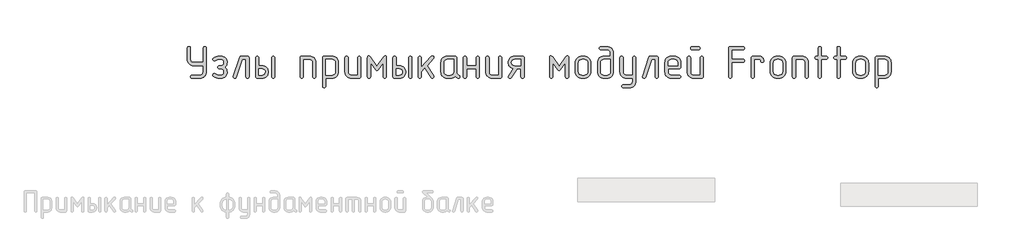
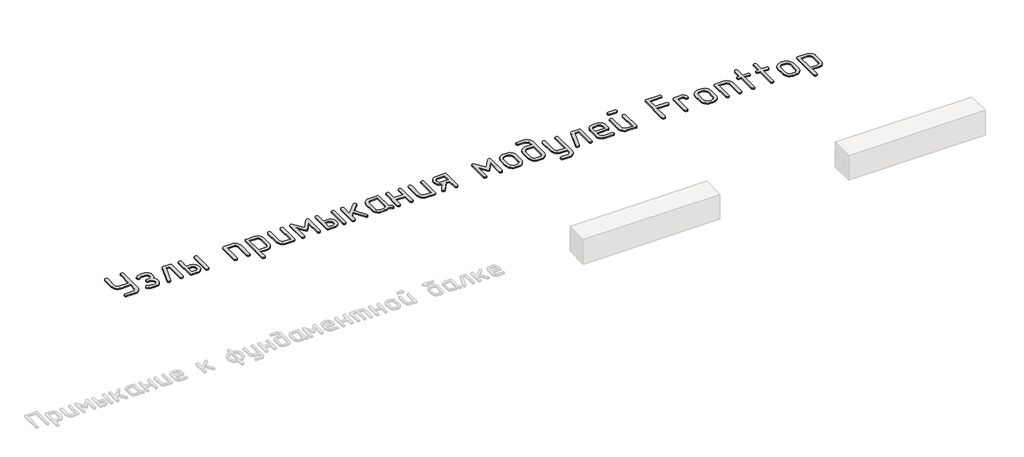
# One storey, part 21 of 37: 1 proxy.
"""IFC4 building model written with IfcOpenShell, lengths in millimetres."""

from ifc_helpers import new_model, si_unit, origin, origin_with_axes, place, context, project, spatial, polyline, outline, extrude, element, save

model = new_model("IFC4")

# Units and contexts
model_context = context("Model", 3, world=origin())
ifc_project = project(units=[si_unit("LENGTHUNIT", "METRE", prefix="MILLI")], contexts=[model_context])

# Site, building, storey
site = spatial("IfcSite", under=ifc_project)
building = spatial("IfcBuilding", under=site)
storey = spatial("IfcBuildingStorey", under=building, Name="Этаж 01", Elevation=0.0)

# Proxy
placement = place(None, origin())
element("IfcBuildingElementProxy", 1, Name="600 мм ГОСТ 2.304", ObjectType="600 мм ГОСТ 2.304", at=placement, inside=storey, context=model_context, shape_type="SweptSolid", body=[
    extrude(outline(polyline([(38693.7635638, -6694.9311498), (38512.6607793, -6694.9311498), (38488.420839, -6692.7223481), (38466.0579062, -6686.0959428), (38445.5719809, -6675.051934), (38426.9630631, -6659.5903217), (38411.5014508, -6640.9814039), (38400.457442, -6620.4954786), (38393.8310367, -6598.1325458), (38391.6222349, -6573.8926055), (38391.6222349, -6362.757701), (38393.8405165, -6350.0736806), (38400.4953613, -6340.233611), (38410.449189, -6333.9200403), (38422.5644192, -6331.8155167), (38433.5231095, -6333.8062822), (38443.3442194, -6339.7785788), (38450.2834593, -6349.5048904), (38452.5965393, -6362.757701), (38452.5965393, -6573.8926055), (38456.9003847, -6597.4215581), (38469.8119212, -6616.7414636), (38489.1318267, -6629.653), (38512.6607793, -6633.9568455), (38693.7635638, -6633.9568455), (38693.7635638, -6362.757701), (38695.9628857, -6350.0736806), (38702.5608514, -6340.233611), (38712.2682034, -6333.9200403), (38723.7956838, -6331.8155167), (38735.2283658, -6333.8062822), (38744.9546774, -6339.7785788), (38751.6095222, -6349.5048904), (38753.8278038, -6362.757701), (38753.8278038, -6815.05963), (38751.6190021, -6839.6977234), (38744.9925968, -6862.3450513), (38733.948588, -6883.0016136), (38718.4869757, -6901.6674105), (38700.276211, -6916.7308697), (38680.0746808, -6927.4904834), (38657.882385, -6933.9462516), (38633.6993237, -6936.0981743), (38482.6286593, -6936.0981743), (38470.0583969, -6933.8988524), (38460.5596014, -6927.3008867), (38454.5873048, -6917.5935347), (38452.5965393, -6906.0660543), (38454.4735468, -6894.5385739), (38460.1045693, -6884.831222), (38469.4896068, -6878.2332562), (38482.6286593, -6876.0339343), (38633.6993237, -6876.0339343), (38656.6594862, -6871.6163308), (38676.0931497, -6858.3635202), (38689.3459602, -6838.7023406), (38693.7635638, -6815.05963), (38693.7635638, -6694.9311498)])), origin_with_axes(), (0.0, 0.0, 1.0), 20.0),
    extrude(outline(polyline([(39035.9477193, -6754.9953899), (38998.0283758, -6754.9953899), (38985.4581134, -6752.796068), (38975.9593179, -6746.1981022), (38969.9870213, -6736.4907503), (38967.9962558, -6724.9632699), (38969.9870213, -6713.5305878), (38975.9593179, -6703.8042762), (38985.4581134, -6697.1494314), (38998.0283758, -6694.9311498), (39028.0604958, -6694.9311498), (39053.3147786, -6690.3997883), (39072.6536438, -6676.8057037), (39084.939511, -6657.030766), (39089.0348001, -6633.9568455), (39085.2807851, -6611.6602716), (39074.0187401, -6592.3972451), (39054.5661169, -6578.5187654), (39028.0604958, -6573.8926055), (38998.0283758, -6573.8926055), (38959.5781615, -6579.8459424), (38925.5265911, -6597.7059532), (38907.0219515, -6604.8347897), (38895.5892694, -6602.5217098), (38885.8629578, -6595.5824699), (38879.208113, -6585.3063278), (38876.9898314, -6572.9825412), (38880.0992176, -6560.6587546), (38889.4273761, -6550.0792578), (38913.7336753, -6534.2194924), (38939.9359416, -6522.8910885), (38968.0341751, -6516.0940462), (38998.0283758, -6513.8283654), (39028.0604958, -6513.8283654), (39055.2486651, -6516.1509252), (39079.4791256, -6523.1186045), (39100.7518773, -6534.7314035), (39119.0669202, -6550.989322), (39132.2059727, -6568.4037805), (39141.5910102, -6588.0365206), (39147.2220327, -6609.8875423), (39149.0990402, -6633.9568455), (39146.7196014, -6660.5193456), (39139.581285, -6684.5412497), (39127.684091, -6706.0225578), (39111.0280194, -6724.9632699), (39127.4470951, -6743.6575062), (39139.3916883, -6766.0678382), (39146.6722022, -6790.6774921), (39149.0990402, -6815.9696942), (39147.2220327, -6839.6977234), (39141.5910102, -6861.434987), (39132.2059727, -6881.1814852), (39119.0669202, -6898.9372177), (39100.7518773, -6915.1951362), (39079.4791256, -6926.8079352), (39055.2486651, -6933.7756146), (39028.0604958, -6936.0981743), (38998.0283758, -6936.0981743), (38968.0341751, -6933.8324936), (38939.9359416, -6927.0354512), (38913.7336753, -6915.7070474), (38889.4273761, -6899.847282), (38880.0992176, -6889.0402691), (38876.9898314, -6876.0339343), (38879.208113, -6864.2789378), (38885.8629578, -6853.8890377), (38895.5892694, -6846.6085237), (38907.0219515, -6844.1816858), (38925.5265911, -6851.3105223), (38941.6612717, -6862.1270151), (38959.1231294, -6869.8530813), (38977.9121641, -6874.488721), (38998.0283758, -6876.0339343), (39028.0604958, -6876.0339343), (39053.8835687, -6871.5025727), (39073.1086759, -6857.9084881), (39085.0532691, -6838.1335505), (39089.0348001, -6815.05963), (39085.6978979, -6793.2180881), (39075.6871912, -6775.320158), (39058.2442932, -6761.4416783), (39035.9477193, -6754.9953899)])), origin_with_axes(), (0.0, 0.0, 1.0), 20.0),
    extrude(outline(polyline([(39567.4252374, -6906.0660543), (39565.3207139, -6919.2051068), (39559.0071432, -6928.5901443), (39549.3945896, -6934.2211668), (39537.3931174, -6936.0981743), (39525.865637, -6934.1074088), (39516.158285, -6928.1351122), (39509.5603193, -6918.6363167), (39507.3609974, -6906.0660543), (39507.3609974, -6573.8926055), (39437.5894054, -6573.8926055), (39324.4380844, -6915.7734062), (39313.4414748, -6930.7894663), (39297.1361571, -6936.0981743), (39285.4949187, -6934.1074088), (39275.4462927, -6928.1351122), (39268.5070528, -6918.8638327), (39266.1939729, -6906.9761185), (39268.0141013, -6896.3587024), (39387.2325172, -6534.1531335), (39398.0016108, -6518.9095574), (39416.354573, -6513.8283654), (39537.3931174, -6513.8283654), (39550.5321699, -6515.7053729), (39559.9172074, -6521.3363954), (39565.5482299, -6530.7214329), (39567.4252374, -6543.8604854), (39567.4252374, -6906.0660543)])), origin_with_axes(), (0.0, 0.0, 1.0), 20.0),
    extrude(outline(polyline([(40054.6129624, -6906.0660543), (40052.5084388, -6919.2051068), (40046.1948681, -6928.5901443), (40036.5823146, -6934.2211668), (40024.5808424, -6936.0981743), (40013.6221521, -6934.1074088), (40003.8010421, -6928.1351122), (39996.8618023, -6918.6363167), (39994.5487223, -6906.0660543), (39994.5487223, -6543.8604854), (39996.7480443, -6531.2902231), (40003.34601, -6521.7914275), (40013.0533619, -6515.8191309), (40024.5808424, -6513.8283654), (40036.0135244, -6515.7053729), (40045.739836, -6521.3363954), (40052.3946808, -6530.7214329), (40054.6129624, -6543.8604854), (40054.6129624, -6906.0660543)])), origin_with_axes(), (0.0, 0.0, 1.0), 20.0),
    extrude(outline(polyline([(39753.3816978, -6694.9311498), (39813.4459379, -6694.9311498), (39840.6341072, -6697.2537096), (39864.8645676, -6704.221389), (39886.1373193, -6715.8341879), (39904.4523622, -6732.0921064), (39917.5914148, -6749.5065649), (39926.9764523, -6769.139305), (39932.6074748, -6790.9903267), (39934.4844823, -6815.05963), (39932.6074748, -6839.1384131), (39926.9764523, -6861.0178743), (39917.5914148, -6880.6980135), (39904.4523622, -6898.1788309), (39886.4785934, -6914.7685436), (39865.3195998, -6926.6183385), (39840.9753813, -6933.7282154), (39813.4459379, -6936.0981743), (39723.3495778, -6936.0981743), (39709.8123722, -6934.2211668), (39700.1429396, -6928.5901443), (39694.34128, -6919.2051068), (39692.4073935, -6906.0660543), (39692.4073935, -6543.8604854), (39694.6256751, -6531.2902231), (39701.2805199, -6521.7914275), (39711.2343476, -6515.8191309), (39723.3495778, -6513.8283654), (39734.3082681, -6515.7053729), (39744.129378, -6521.3363954), (39751.0686179, -6530.7214329), (39753.3816978, -6543.8604854), (39753.3816978, -6694.9311498)]), holes=[polyline([(39753.3816978, -6754.9953899), (39753.3816978, -6876.0339343), (39813.4459379, -6876.0339343), (39838.5864626, -6871.5025727), (39857.5840537, -6857.9084881), (39869.5286469, -6838.1335505), (39873.510178, -6815.05963), (39869.983679, -6792.3080239), (39859.4041822, -6773.5000295), (39839.951559, -6759.6215498), (39813.4459379, -6754.9953899), (39753.3816978, -6754.9953899)])]), origin_with_axes(), (0.0, 0.0, 1.0), 20.0),
    extrude(outline(polyline([(40839.0883402, -6906.0660543), (40836.9838167, -6919.2051068), (40830.670246, -6928.5901443), (40821.0576924, -6934.2211668), (40809.0562202, -6936.0981743), (40797.5287398, -6934.1074088), (40787.8213878, -6928.1351122), (40781.2234221, -6918.6363167), (40779.0241002, -6906.0660543), (40779.0241002, -6633.9568455), (40774.6064966, -6610.9966831), (40761.3536861, -6591.5630195), (40741.6925065, -6578.310209), (40718.0497958, -6573.8926055), (40597.9213157, -6573.8926055), (40597.9213157, -6906.0660543), (40595.8167921, -6919.2051068), (40589.5032215, -6928.5901443), (40579.8906679, -6934.2211668), (40567.8891957, -6936.0981743), (40556.2479572, -6934.1074088), (40546.1993312, -6928.1351122), (40539.2600914, -6918.6363167), (40536.9470114, -6906.0660543), (40536.9470114, -6543.8604854), (40538.8808979, -6530.7214329), (40544.6825575, -6521.3363954), (40554.3519901, -6515.7053729), (40567.8891957, -6513.8283654), (40718.0497958, -6513.8283654), (40741.8915831, -6516.0371672), (40763.9701208, -6522.6635724), (40784.2854091, -6533.7075812), (40802.8374479, -6549.1691935), (40818.6972133, -6567.3799582), (40830.0256171, -6587.5814885), (40836.8226594, -6609.7737842), (40839.0883402, -6633.9568455), (40839.0883402, -6906.0660543)])), origin_with_axes(), (0.0, 0.0, 1.0), 20.0),
    extrude(outline(polyline([(41025.0448006, -6936.0981743), (41025.0448006, -7087.1688387), (41022.9402771, -7100.3078913), (41016.6267064, -7109.6929288), (41007.0141528, -7115.3239513), (40995.0126806, -7117.2009588), (40983.3714421, -7115.2101932), (40973.3228161, -7109.2378966), (40966.3835763, -7099.7391011), (40964.0704963, -7087.1688387), (40964.0704963, -6543.8604854), (40966.0043828, -6530.7214329), (40971.8060424, -6521.3363954), (40981.475475, -6515.7053729), (40995.0126806, -6513.8283654), (41145.1732807, -6513.8283654), (41169.7544952, -6515.9802881), (41192.231186, -6522.4360564), (41212.6033533, -6533.1956701), (41230.870997, -6548.2591293), (41246.3326093, -6566.8680471), (41257.3766181, -6587.3539724), (41264.0030234, -6609.7169052), (41266.2118251, -6633.9568455), (41266.2118251, -6815.05963), (41264.0030234, -6839.6977234), (41257.3766181, -6862.3450513), (41246.3326093, -6883.0016136), (41230.870997, -6901.6674105), (41212.6033533, -6916.7308697), (41192.231186, -6927.4904834), (41169.7544952, -6933.9462516), (41145.1732807, -6936.0981743), (41025.0448006, -6936.0981743)]), holes=[polyline([(41025.0448006, -6876.0339343), (41145.1732807, -6876.0339343), (41168.8159914, -6871.6163308), (41188.477171, -6858.3635202), (41201.7299815, -6838.7023406), (41206.1475851, -6815.05963), (41206.1475851, -6633.9568455), (41201.7299815, -6610.9966831), (41188.477171, -6591.5630195), (41168.8159914, -6578.310209), (41145.1732807, -6573.8926055), (41025.0448006, -6573.8926055), (41025.0448006, -6876.0339343)])]), origin_with_axes(), (0.0, 0.0, 1.0), 20.0),
    extrude(outline(polyline([(41693.33531, -6906.0660543), (41691.4583025, -6919.2051068), (41685.82728, -6928.5901443), (41676.4422425, -6934.2211668), (41663.30319, -6936.0981743), (41512.2325256, -6936.0981743), (41487.9925853, -6933.9462516), (41465.6296525, -6927.4904834), (41445.1437271, -6916.7308697), (41426.5348093, -6901.6674105), (41411.073197, -6883.0016136), (41400.0291882, -6862.3450513), (41393.402783, -6839.6977234), (41391.1939812, -6815.05963), (41391.1939812, -6543.8604854), (41393.4122628, -6531.2902231), (41400.0671076, -6521.7914275), (41410.0209353, -6515.8191309), (41422.1361655, -6513.8283654), (41433.0948558, -6515.7053729), (41442.9159657, -6521.3363954), (41449.8552056, -6530.7214329), (41452.1682855, -6543.8604854), (41452.1682855, -6815.05963), (41456.472131, -6838.7023406), (41469.3836675, -6858.3635202), (41488.703573, -6871.6163308), (41512.2325256, -6876.0339343), (41633.27107, -6876.0339343), (41633.27107, -6543.8604854), (41635.4703919, -6531.2902231), (41642.0683576, -6521.7914275), (41651.7757096, -6515.8191309), (41663.30319, -6513.8283654), (41674.7358721, -6515.7053729), (41684.4621837, -6521.3363954), (41691.1170284, -6530.7214329), (41693.33531, -6543.8604854), (41693.33531, -6906.0660543)])), origin_with_axes(), (0.0, 0.0, 1.0), 20.0),
    extrude(outline(polyline([(42180.523035, -6906.0660543), (42178.3047534, -6918.6363167), (42171.6499086, -6928.1351122), (42161.923597, -6934.1074088), (42150.490915, -6936.0981743), (42138.3946444, -6934.2211668), (42128.8010505, -6928.5901443), (42122.5443588, -6919.2051068), (42120.4587949, -6906.0660543), (42120.4587949, -6637.4454251), (42024.1436625, -6772.7416426), (42011.7440372, -6784.5724778), (41999.4202506, -6788.5160895), (41986.6414318, -6784.5724778), (41974.6968386, -6772.7416426), (41879.2917704, -6637.4454251), (41879.2917704, -6906.0660543), (41876.9786905, -6918.6363167), (41870.0394506, -6928.1351122), (41860.2183407, -6934.1074088), (41849.2596504, -6936.0981743), (41836.57563, -6934.2211668), (41826.7355604, -6928.5901443), (41820.4219897, -6919.2051068), (41818.3174661, -6906.0660543), (41818.3174661, -6543.8604854), (41820.1944736, -6528.9202641), (41825.8254961, -6517.7719771), (41834.3383887, -6510.8327373), (41844.8610066, -6508.5196573), (41860.4837761, -6512.9562205), (41873.9830623, -6526.2659101), (41999.4202506, -6702.8183733), (42125.767503, -6526.2659101), (42139.4184667, -6512.9562205), (42153.9794946, -6508.5196573), (42164.5021124, -6510.8327373), (42173.015005, -6517.7719771), (42178.6460275, -6528.9202641), (42180.523035, -6543.8604854), (42180.523035, -6906.0660543)])), origin_with_axes(), (0.0, 0.0, 1.0), 20.0),
    extrude(outline(polyline([(42665.8906315, -6906.0660543), (42663.7861079, -6919.2051068), (42657.4725372, -6928.5901443), (42647.8599837, -6934.2211668), (42635.8585115, -6936.0981743), (42624.8998212, -6934.1074088), (42615.0787112, -6928.1351122), (42608.1394714, -6918.6363167), (42605.8263914, -6906.0660543), (42605.8263914, -6543.8604854), (42608.0257133, -6531.2902231), (42614.6236791, -6521.7914275), (42624.331031, -6515.8191309), (42635.8585115, -6513.8283654), (42647.2911935, -6515.7053729), (42657.0175051, -6521.3363954), (42663.6723499, -6530.7214329), (42665.8906315, -6543.8604854), (42665.8906315, -6906.0660543)])), origin_with_axes(), (0.0, 0.0, 1.0), 20.0),
    extrude(outline(polyline([(42364.6593669, -6694.9311498), (42424.723607, -6694.9311498), (42451.9117763, -6697.2537096), (42476.1422367, -6704.221389), (42497.4149884, -6715.8341879), (42515.7300313, -6732.0921064), (42528.8690838, -6749.5065649), (42538.2541213, -6769.139305), (42543.8851439, -6790.9903267), (42545.7621514, -6815.05963), (42543.8851439, -6839.1384131), (42538.2541213, -6861.0178743), (42528.8690838, -6880.6980135), (42515.7300313, -6898.1788309), (42497.7562625, -6914.7685436), (42476.5972689, -6926.6183385), (42452.2530503, -6933.7282154), (42424.723607, -6936.0981743), (42334.6272469, -6936.0981743), (42321.0900413, -6934.2211668), (42311.4206087, -6928.5901443), (42305.6189491, -6919.2051068), (42303.6850626, -6906.0660543), (42303.6850626, -6543.8604854), (42305.9033442, -6531.2902231), (42312.558189, -6521.7914275), (42322.5120166, -6515.8191309), (42334.6272469, -6513.8283654), (42345.5859371, -6515.7053729), (42355.4070471, -6521.3363954), (42362.346287, -6530.7214329), (42364.6593669, -6543.8604854), (42364.6593669, -6694.9311498)]), holes=[polyline([(42364.6593669, -6754.9953899), (42364.6593669, -6876.0339343), (42424.723607, -6876.0339343), (42449.8641317, -6871.5025727), (42468.8617228, -6857.9084881), (42480.806316, -6838.1335505), (42484.787847, -6815.05963), (42481.2613481, -6792.3080239), (42470.6818513, -6773.5000295), (42451.2292281, -6759.6215498), (42424.723607, -6754.9953899), (42364.6593669, -6754.9953899)])]), origin_with_axes(), (0.0, 0.0, 1.0), 20.0),
    extrude(outline(polyline([(42911.0012677, -6738.1592014), (42843.8081911, -6808.8408576), (42843.8081911, -6906.0660543), (42841.7036675, -6919.2051068), (42835.3900968, -6928.5901443), (42825.7775432, -6934.2211668), (42813.776071, -6936.0981743), (42802.343389, -6934.1074088), (42792.6170774, -6928.1351122), (42785.9622326, -6918.6363167), (42783.743951, -6906.0660543), (42783.743951, -6543.8604854), (42785.8484746, -6531.2902231), (42792.1620453, -6521.7914275), (42801.7745988, -6515.8191309), (42813.776071, -6513.8283654), (42824.7347613, -6515.7053729), (42834.5558713, -6521.3363954), (42841.4951111, -6530.7214329), (42843.8081911, -6543.8604854), (42843.8081911, -6721.4746903), (43035.5283917, -6520.957202), (43044.0981633, -6513.676688), (43054.0330313, -6511.24985), (43065.6742697, -6513.676688), (43075.7228958, -6520.957202), (43082.6621356, -6531.5366988), (43084.9752156, -6543.8604854), (43082.5483776, -6555.3879658), (43075.2678636, -6566.9154463), (42953.319255, -6694.0210856), (43077.846379, -6886.6513504), (43084.9752156, -6906.9761185), (43082.5483776, -6918.9775908), (43075.2678636, -6928.5901443), (43065.1054796, -6934.903715), (43054.0330313, -6937.0082386), (43041.4817286, -6934.1263685), (43032.0398121, -6925.4807582), (42911.0012677, -6738.1592014)])), origin_with_axes(), (0.0, 0.0, 1.0), 20.0),
    extrude(outline(polyline([(43487.3752885, -6896.3587024), (43469.4773584, -6912.322746), (43447.6358166, -6925.025726), (43423.1399207, -6933.3300623), (43397.2789284, -6936.0981743), (43337.2146884, -6936.0981743), (43312.9747481, -6933.9462516), (43290.6118152, -6927.4904834), (43270.1258899, -6916.7308697), (43251.5169721, -6901.6674105), (43236.0553598, -6883.0016136), (43225.011351, -6862.3450513), (43218.3849458, -6839.6977234), (43216.176144, -6815.05963), (43216.176144, -6633.9568455), (43218.3849458, -6610.1150583), (43225.011351, -6588.0365206), (43236.0553598, -6567.7212323), (43251.5169721, -6549.1691935), (43270.1258899, -6533.7075812), (43290.6118152, -6522.6635724), (43312.9747481, -6516.0371672), (43337.2146884, -6513.8283654), (43488.2853528, -6513.8283654), (43501.4244053, -6515.7053729), (43510.8094428, -6521.3363954), (43516.4404653, -6530.7214329), (43518.3174728, -6543.8604854), (43518.3174728, -6815.05963), (43521.1803832, -6834.6070515), (43529.7691145, -6852.59978), (43543.0219251, -6867.7106384), (43559.8770733, -6878.6124496), (43574.4381012, -6889.2677851), (43579.2917771, -6905.1559901), (43577.1872536, -6916.9109865), (43570.8736829, -6927.3008867), (43561.2611293, -6934.5814006), (43549.2596571, -6937.0082386), (43536.8221124, -6933.519659), (43508.9893143, -6917.5556154), (43487.3752885, -6896.3587024)]), holes=[polyline([(43458.2532327, -6815.05963), (43458.2532327, -6573.8926055), (43337.2146884, -6573.8926055), (43313.6857357, -6578.310209), (43294.3658302, -6591.5630195), (43281.4542938, -6610.9966831), (43277.1504483, -6633.9568455), (43277.1504483, -6815.05963), (43281.4542938, -6838.7023406), (43294.3658302, -6858.3635202), (43313.6857357, -6871.6163308), (43337.2146884, -6876.0339343), (43397.2789284, -6876.0339343), (43420.9216391, -6871.6163308), (43440.5828187, -6858.3635202), (43453.8356292, -6838.7023406), (43458.2532327, -6815.05963)])]), origin_with_axes(), (0.0, 0.0, 1.0), 20.0),
    extrude(outline(polyline([(43885.3767176, -6694.9311498), (43885.3767176, -6543.8604854), (43887.5760396, -6531.2902231), (43894.1740053, -6521.7914275), (43903.8813573, -6515.8191309), (43915.4088377, -6513.8283654), (43926.8415197, -6515.7053729), (43936.5678313, -6521.3363954), (43943.2226761, -6530.7214329), (43945.4409577, -6543.8604854), (43945.4409577, -6906.0660543), (43943.3364342, -6919.2051068), (43937.0228635, -6928.5901443), (43927.4103099, -6934.2211668), (43915.4088377, -6936.0981743), (43903.8813573, -6934.1074088), (43894.1740053, -6928.1351122), (43887.5760396, -6918.6363167), (43885.3767176, -6906.0660543), (43885.3767176, -6754.9953899), (43704.2739332, -6754.9953899), (43704.2739332, -6906.0660543), (43702.1694096, -6919.2051068), (43695.855839, -6928.5901443), (43686.2432854, -6934.2211668), (43674.2418132, -6936.0981743), (43662.6005747, -6934.1074088), (43652.5519487, -6928.1351122), (43645.6127089, -6918.6363167), (43643.2996289, -6906.0660543), (43643.2996289, -6543.8604854), (43645.5179105, -6531.2902231), (43652.1727553, -6521.7914275), (43662.1265829, -6515.8191309), (43674.2418132, -6513.8283654), (43685.2005034, -6515.7053729), (43695.0216134, -6521.3363954), (43701.9608533, -6530.7214329), (43704.2739332, -6543.8604854), (43704.2739332, -6694.9311498), (43885.3767176, -6694.9311498)])), origin_with_axes(), (0.0, 0.0, 1.0), 20.0),
    extrude(outline(polyline([(44372.5644426, -6906.0660543), (44370.6874351, -6919.2051068), (44365.0564126, -6928.5901443), (44355.6713751, -6934.2211668), (44342.5323226, -6936.0981743), (44191.4616582, -6936.0981743), (44167.2217179, -6933.9462516), (44144.8587851, -6927.4904834), (44124.3728597, -6916.7308697), (44105.7639419, -6901.6674105), (44090.3023296, -6883.0016136), (44079.2583208, -6862.3450513), (44072.6319156, -6839.6977234), (44070.4231138, -6815.05963), (44070.4231138, -6543.8604854), (44072.6413954, -6531.2902231), (44079.2962402, -6521.7914275), (44089.2500678, -6515.8191309), (44101.3652981, -6513.8283654), (44112.3239883, -6515.7053729), (44122.1450983, -6521.3363954), (44129.0843382, -6530.7214329), (44131.3974181, -6543.8604854), (44131.3974181, -6815.05963), (44135.7012636, -6838.7023406), (44148.6128001, -6858.3635202), (44167.9327056, -6871.6163308), (44191.4616582, -6876.0339343), (44312.5002026, -6876.0339343), (44312.5002026, -6543.8604854), (44314.6995245, -6531.2902231), (44321.2974902, -6521.7914275), (44331.0048422, -6515.8191309), (44342.5323226, -6513.8283654), (44353.9650046, -6515.7053729), (44363.6913162, -6521.3363954), (44370.346161, -6530.7214329), (44372.5644426, -6543.8604854), (44372.5644426, -6906.0660543)])), origin_with_axes(), (0.0, 0.0, 1.0), 20.0),
    extrude(outline(polyline([(44665.4534516, -6754.9953899), (44553.2121949, -6922.9022428), (44542.6326981, -6933.4817396), (44528.488783, -6937.0082386), (44517.4163347, -6934.6951586), (44507.2539506, -6927.7559188), (44499.9734367, -6917.7072928), (44497.5465987, -6906.0660543), (44502.8553068, -6889.2298658), (44592.9516669, -6753.1752614), (44571.6694354, -6747.6011179), (44552.8709208, -6738.7659109), (44536.5561233, -6726.6696403), (44522.7250428, -6711.3123062), (44511.7094735, -6693.7366905), (44503.8412097, -6674.9855752), (44499.1202515, -6655.0589602), (44497.5465987, -6633.9568455), (44499.4804852, -6610.6269695), (44505.2821448, -6589.1741009), (44514.9515774, -6569.5982398), (44528.488783, -6551.8993862), (44546.3487938, -6535.2433146), (44567.3181907, -6523.3461206), (44591.3969738, -6516.2078042), (44618.5851431, -6513.8283654), (44769.6558075, -6513.8283654), (44782.79486, -6515.7053729), (44792.1798975, -6521.3363954), (44797.81092, -6530.7214329), (44799.6879275, -6543.8604854), (44799.6879275, -6906.0660543), (44797.583404, -6919.2051068), (44791.2698333, -6928.5901443), (44781.6572797, -6934.2211668), (44769.6558075, -6936.0981743), (44758.1283271, -6934.1074088), (44748.4209751, -6928.1351122), (44741.8230094, -6918.6363167), (44739.6236875, -6906.0660543), (44739.6236875, -6754.9953899), (44665.4534516, -6754.9953899)]), holes=[polyline([(44739.6236875, -6694.9311498), (44739.6236875, -6573.8926055), (44618.5851431, -6573.8926055), (44593.4446184, -6578.310209), (44574.4470273, -6591.5630195), (44562.5024341, -6610.9966831), (44558.520903, -6633.9568455), (44562.3886761, -6657.030766), (44573.9919952, -6676.8057037), (44592.8758282, -6690.3997883), (44618.5851431, -6694.9311498), (44739.6236875, -6694.9311498)])]), origin_with_axes(), (0.0, 0.0, 1.0), 20.0),
    extrude(outline(polyline([(45646.0476739, -6906.0660543), (45643.8293923, -6918.6363167), (45637.1745475, -6928.1351122), (45627.4482359, -6934.1074088), (45616.0155539, -6936.0981743), (45603.9192833, -6934.2211668), (45594.3256894, -6928.5901443), (45588.0689977, -6919.2051068), (45585.9834338, -6906.0660543), (45585.9834338, -6637.4454251), (45489.6683014, -6772.7416426), (45477.2686761, -6784.5724778), (45464.9448895, -6788.5160895), (45452.1660707, -6784.5724778), (45440.2214775, -6772.7416426), (45344.8164093, -6637.4454251), (45344.8164093, -6906.0660543), (45342.5033294, -6918.6363167), (45335.5640895, -6928.1351122), (45325.7429796, -6934.1074088), (45314.7842893, -6936.0981743), (45302.1002689, -6934.2211668), (45292.2601993, -6928.5901443), (45285.9466286, -6919.2051068), (45283.842105, -6906.0660543), (45283.842105, -6543.8604854), (45285.7191125, -6528.9202641), (45291.350135, -6517.7719771), (45299.8630276, -6510.8327373), (45310.3856455, -6508.5196573), (45326.008415, -6512.9562205), (45339.5077012, -6526.2659101), (45464.9448895, -6702.8183733), (45591.2921419, -6526.2659101), (45604.9431056, -6512.9562205), (45619.5041335, -6508.5196573), (45630.0267513, -6510.8327373), (45638.5396439, -6517.7719771), (45644.1706664, -6528.9202641), (45646.0476739, -6543.8604854), (45646.0476739, -6906.0660543)])), origin_with_axes(), (0.0, 0.0, 1.0), 20.0),
    extrude(outline(polyline([(46071.3510303, -6803.5321495), (46068.9241923, -6830.3221657), (46061.6436784, -6855.026618), (46049.5094885, -6877.6455064), (46032.5216226, -6898.1788309), (46012.3864512, -6914.7685436), (45990.0519579, -6926.6183385), (45965.5181427, -6933.7282154), (45938.7850055, -6936.0981743), (45902.5341132, -6936.0981743), (45875.8104558, -6933.7282154), (45851.1534028, -6926.6183385), (45828.5629539, -6914.7685436), (45808.0391092, -6898.1788309), (45791.0512433, -6877.6455064), (45778.9170534, -6855.026618), (45771.6365395, -6830.3221657), (45769.2097015, -6803.5321495), (45769.2097015, -6646.3943902), (45771.6365395, -6620.0025271), (45778.9170534, -6595.5824699), (45791.0512433, -6573.1342186), (45808.0391092, -6552.6577731), (45829.188623, -6535.6699072), (45851.9876283, -6523.5357173), (45876.436125, -6516.2552034), (45902.5341132, -6513.8283654), (45938.7850055, -6513.8283654), (45965.1721287, -6516.2599433), (45989.5779661, -6523.554677), (46012.0025179, -6535.7125665), (46032.4457839, -6552.7336118), (46049.4668292, -6573.1768779), (46061.6247187, -6595.6014296), (46068.9194524, -6620.007267), (46071.3510303, -6646.3943902), (46071.3510303, -6803.5321495)]), holes=[polyline([(46011.2867902, -6803.5321495), (46011.2867902, -6646.3943902), (46005.9780822, -6618.5615921), (45990.0519579, -6595.1274378), (45966.6178036, -6579.2013135), (45938.7850055, -6573.8926055), (45902.5341132, -6573.8926055), (45874.7202747, -6579.2013135), (45851.3429995, -6595.1274378), (45835.4737542, -6618.5615921), (45830.1840058, -6646.3943902), (45830.1840058, -6803.5321495), (45835.4737542, -6831.3649477), (45851.3429995, -6854.7991019), (45874.7202747, -6870.7252262), (45902.5341132, -6876.0339343), (45938.7850055, -6876.0339343), (45966.6178036, -6870.7252262), (45990.0519579, -6854.7991019), (46005.9780822, -6831.3649477), (46011.2867902, -6803.5321495)])]), origin_with_axes(), (0.0, 0.0, 1.0), 20.0),
    extrude(outline(polyline([(46438.4102752, -6513.8283654), (46438.4102752, -6452.8540611), (46433.9926716, -6429.3251085), (46420.7398611, -6410.005203), (46401.0786815, -6397.0936665), (46377.4359708, -6392.789821), (46257.3074907, -6392.789821), (46244.7372284, -6390.5904991), (46235.2384328, -6383.9925333), (46229.2661362, -6374.2851814), (46227.2753707, -6362.757701), (46229.1523782, -6351.2112609), (46234.7834007, -6341.1436752), (46244.1684382, -6334.1475563), (46257.3074907, -6331.8155167), (46377.4359708, -6331.8155167), (46402.0171853, -6334.0243185), (46424.4938761, -6340.6507237), (46444.8660434, -6351.6947325), (46463.1336871, -6367.1563448), (46478.5952994, -6385.7652626), (46489.6393082, -6406.251188), (46496.2657135, -6428.6141208), (46498.4745152, -6452.8540611), (46498.4745152, -6815.05963), (46496.2657135, -6839.6977234), (46489.6393082, -6862.3450513), (46478.5952994, -6883.0016136), (46463.1336871, -6901.6674105), (46444.8660434, -6916.7308697), (46424.4938761, -6927.4904834), (46402.0171853, -6933.9462516), (46377.4359708, -6936.0981743), (46317.3717308, -6936.0981743), (46293.1317905, -6933.9462516), (46270.7688577, -6927.4904834), (46250.2829323, -6916.7308697), (46231.6740145, -6901.6674105), (46216.2124022, -6883.0016136), (46205.1683934, -6862.3450513), (46198.5419882, -6839.6977234), (46196.3331864, -6815.05963), (46196.3331864, -6633.9568455), (46198.5419882, -6610.1150583), (46205.1683934, -6588.0365206), (46216.2124022, -6567.7212323), (46231.6740145, -6549.1691935), (46250.2829323, -6533.7075812), (46270.7688577, -6522.6635724), (46293.1317905, -6516.0371672), (46317.3717308, -6513.8283654), (46438.4102752, -6513.8283654)]), holes=[polyline([(46438.4102752, -6573.8926055), (46317.3717308, -6573.8926055), (46293.8427782, -6578.310209), (46274.5228727, -6591.5630195), (46261.6113362, -6610.9966831), (46257.3074907, -6633.9568455), (46257.3074907, -6815.05963), (46261.6113362, -6838.7023406), (46274.5228727, -6858.3635202), (46293.8427782, -6871.6163308), (46317.3717308, -6876.0339343), (46377.4359708, -6876.0339343), (46401.0786815, -6871.6163308), (46420.7398611, -6858.3635202), (46433.9926716, -6838.7023406), (46438.4102752, -6815.05963), (46438.4102752, -6573.8926055)])]), origin_with_axes(), (0.0, 0.0, 1.0), 20.0),
    extrude(outline(polyline([(46865.5337601, -6936.0981743), (46744.4952157, -6936.0981743), (46720.2552754, -6933.9462516), (46697.8923426, -6927.4904834), (46677.4064172, -6916.7308697), (46658.7974994, -6901.6674105), (46643.3358871, -6883.0016136), (46632.2918783, -6862.3450513), (46625.6654731, -6839.6977234), (46623.4566713, -6815.05963), (46623.4566713, -6543.8604854), (46625.6749529, -6531.2902231), (46632.3297977, -6521.7914275), (46642.2836254, -6515.8191309), (46654.3988556, -6513.8283654), (46665.3575459, -6515.7053729), (46675.1786558, -6521.3363954), (46682.1178957, -6530.7214329), (46684.4309756, -6543.8604854), (46684.4309756, -6815.05963), (46688.7348211, -6838.7023406), (46701.6463576, -6858.3635202), (46720.9662631, -6871.6163308), (46744.4952157, -6876.0339343), (46865.5337601, -6876.0339343), (46865.5337601, -6543.8604854), (46867.733082, -6531.2902231), (46874.3310477, -6521.7914275), (46884.0383997, -6515.8191309), (46895.5658801, -6513.8283654), (46906.9985622, -6515.7053729), (46916.7248738, -6521.3363954), (46923.3797185, -6530.7214329), (46925.5980001, -6543.8604854), (46925.5980001, -6996.1624144), (46923.4460774, -7020.7436288), (46916.9903092, -7043.2203197), (46906.2306954, -7063.5924869), (46891.1672363, -7081.8601307), (46872.5014394, -7097.321743), (46851.8448771, -7108.3657517), (46829.1975492, -7114.992157), (46804.5594558, -7117.2009588), (46684.4309756, -7117.2009588), (46671.8607133, -7114.9826772), (46662.3619177, -7108.3278324), (46656.3896211, -7098.6015208), (46654.3988556, -7087.1688387), (46656.2758631, -7075.6413583), (46661.9068856, -7065.9340064), (46671.2919231, -7059.3360406), (46684.4309756, -7057.1367187), (46804.5594558, -7057.1367187), (46828.2021664, -7052.7191152), (46847.863346, -7039.4663047), (46861.1161565, -7019.8051251), (46865.5337601, -6996.1624144), (46865.5337601, -6936.0981743)])), origin_with_axes(), (0.0, 0.0, 1.0), 20.0),
    extrude(outline(polyline([(47352.721485, -6906.0660543), (47350.6169615, -6919.2051068), (47344.3033908, -6928.5901443), (47334.6908372, -6934.2211668), (47322.689365, -6936.0981743), (47311.1618846, -6934.1074088), (47301.4545327, -6928.1351122), (47294.8565669, -6918.6363167), (47292.657245, -6906.0660543), (47292.657245, -6573.8926055), (47222.885653, -6573.8926055), (47109.734332, -6915.7734062), (47098.7377224, -6930.7894663), (47082.4324047, -6936.0981743), (47070.7911663, -6934.1074088), (47060.7425403, -6928.1351122), (47053.8033004, -6918.8638327), (47051.4902205, -6906.9761185), (47053.310349, -6896.3587024), (47172.5287648, -6534.1531335), (47183.2978584, -6518.9095574), (47201.6508206, -6513.8283654), (47322.689365, -6513.8283654), (47335.8284175, -6515.7053729), (47345.213455, -6521.3363954), (47350.8444775, -6530.7214329), (47352.721485, -6543.8604854), (47352.721485, -6906.0660543)])), origin_with_axes(), (0.0, 0.0, 1.0), 20.0),
    extrude(outline(polyline([(47538.6779454, -6754.9953899), (47538.6779454, -6815.05963), (47542.9817909, -6838.7023406), (47555.8933274, -6858.3635202), (47575.2132329, -6871.6163308), (47598.7421855, -6876.0339343), (47749.8128499, -6876.0339343), (47762.9519024, -6878.1384578), (47772.3369399, -6884.4520285), (47777.9679624, -6894.0645821), (47779.8449699, -6906.0660543), (47777.8542044, -6917.0247446), (47771.8819078, -6926.8458545), (47762.3831123, -6933.7850944), (47749.8128499, -6936.0981743), (47598.7421855, -6936.0981743), (47574.5022452, -6933.9462516), (47552.1393124, -6927.4904834), (47531.6533871, -6916.7308697), (47513.0444692, -6901.6674105), (47497.5828569, -6883.0016136), (47486.5388482, -6862.3450513), (47479.9124429, -6839.6977234), (47477.7036411, -6815.05963), (47477.7036411, -6633.9568455), (47479.9124429, -6609.7737842), (47486.5388482, -6587.5814885), (47497.5828569, -6567.3799582), (47513.0444692, -6549.1691935), (47531.6533871, -6533.7075812), (47552.1393124, -6522.6635724), (47574.5022452, -6516.0371672), (47598.7421855, -6513.8283654), (47658.8064256, -6513.8283654), (47683.38764, -6515.9802881), (47705.8643308, -6522.4360564), (47726.2364981, -6533.1956701), (47744.5041418, -6548.2591293), (47759.9657541, -6566.8680471), (47771.0097629, -6587.3539724), (47777.6361682, -6609.7169052), (47779.8449699, -6633.9568455), (47779.8449699, -6724.9632699), (47777.9679624, -6738.1023224), (47772.3369399, -6747.4873599), (47762.9519024, -6753.1183824), (47749.8128499, -6754.9953899), (47538.6779454, -6754.9953899)]), holes=[polyline([(47538.6779454, -6694.9311498), (47719.7807299, -6694.9311498), (47719.7807299, -6633.9568455), (47715.3631264, -6610.9966831), (47702.1103158, -6591.5630195), (47682.4491362, -6578.310209), (47658.8064256, -6573.8926055), (47598.7421855, -6573.8926055), (47575.2132329, -6578.310209), (47555.8933274, -6591.5630195), (47542.9817909, -6610.9966831), (47538.6779454, -6633.9568455), (47538.6779454, -6694.9311498)])]), origin_with_axes(), (0.0, 0.0, 1.0), 20.0),
    extrude(outline(polyline([(48116.8720947, -6392.789821), (47995.8335504, -6392.789821), (47983.263288, -6390.5904991), (47973.7644925, -6383.9925333), (47967.7921959, -6374.2851814), (47965.8014303, -6362.757701), (47967.6784378, -6351.2112609), (47973.3094603, -6341.1436752), (47982.6944979, -6334.1475563), (47995.8335504, -6331.8155167), (48116.8720947, -6331.8155167), (48130.0111473, -6334.0337983), (48139.3961848, -6340.6886431), (48145.0272073, -6350.6424708), (48146.9042148, -6362.757701), (48144.9134492, -6373.7163913), (48138.9411526, -6383.5375012), (48129.4423571, -6390.4767411), (48116.8720947, -6392.789821)])), origin_with_axes(), (0.0, 0.0, 1.0), 20.0),
    extrude(outline(polyline([(48206.9684548, -6906.0660543), (48205.0914473, -6919.2051068), (48199.4604248, -6928.5901443), (48190.0753873, -6934.2211668), (48176.9363348, -6936.0981743), (48025.8656704, -6936.0981743), (48001.6257301, -6933.9462516), (47979.2627973, -6927.4904834), (47958.776872, -6916.7308697), (47940.1679542, -6901.6674105), (47924.7063419, -6883.0016136), (47913.6623331, -6862.3450513), (47907.0359278, -6839.6977234), (47904.827126, -6815.05963), (47904.827126, -6543.8604854), (47907.0454076, -6531.2902231), (47913.7002524, -6521.7914275), (47923.6540801, -6515.8191309), (47935.7693103, -6513.8283654), (47946.7280006, -6515.7053729), (47956.5491105, -6521.3363954), (47963.4883504, -6530.7214329), (47965.8014303, -6543.8604854), (47965.8014303, -6815.05963), (47970.1052758, -6838.7023406), (47983.0168123, -6858.3635202), (48002.3367178, -6871.6163308), (48025.8656704, -6876.0339343), (48146.9042148, -6876.0339343), (48146.9042148, -6543.8604854), (48149.1035367, -6531.2902231), (48155.7015025, -6521.7914275), (48165.4088544, -6515.8191309), (48176.9363348, -6513.8283654), (48188.3690169, -6515.7053729), (48198.0953285, -6521.3363954), (48204.7501733, -6530.7214329), (48206.9684548, -6543.8604854), (48206.9684548, -6906.0660543)])), origin_with_axes(), (0.0, 0.0, 1.0), 20.0),
    extrude(outline(polyline([(48752.0969366, -6572.9825412), (48963.2318411, -6572.9825412), (48976.3708936, -6575.0870648), (48985.7559311, -6581.4006355), (48991.3869536, -6591.013189), (48993.2639611, -6603.0146613), (48991.2731956, -6614.6558997), (48985.300899, -6624.7045257), (48975.8021035, -6631.6437656), (48963.2318411, -6633.9568455), (48752.0969366, -6633.9568455), (48752.0969366, -6906.0660543), (48749.9924131, -6919.2051068), (48743.6788424, -6928.5901443), (48734.0662888, -6934.2211668), (48722.0648166, -6936.0981743), (48710.4235782, -6934.1074088), (48700.3749521, -6928.1351122), (48693.4357123, -6918.6363167), (48691.1226323, -6906.0660543), (48691.1226323, -6362.757701), (48693.0565189, -6349.2204954), (48698.8581784, -6339.5510628), (48708.527611, -6333.7494032), (48722.0648166, -6331.8155167), (48963.2318411, -6331.8155167), (48976.3708936, -6334.0337983), (48985.7559311, -6340.6886431), (48991.3869536, -6350.6424708), (48993.2639611, -6362.757701), (48991.2731956, -6373.7163913), (48985.300899, -6383.5375012), (48975.8021035, -6390.4767411), (48963.2318411, -6392.789821), (48752.0969366, -6392.789821), (48752.0969366, -6572.9825412)])), origin_with_axes(), (0.0, 0.0, 1.0), 20.0),
    extrude(outline(polyline([(49360.323206, -6603.9247255), (49358.2186824, -6617.063778), (49351.9051117, -6626.4488155), (49342.2925582, -6632.079838), (49330.291086, -6633.9568455), (49318.6498475, -6631.96608), (49308.6012215, -6625.9937834), (49301.6619816, -6616.4949879), (49299.3489017, -6603.9247255), (49297.2443781, -6592.4920434), (49290.9308074, -6582.7657318), (49281.3182539, -6576.1108871), (49269.3167816, -6573.8926055), (49179.2204216, -6573.8926055), (49179.2204216, -6906.0660543), (49177.115898, -6919.2051068), (49170.8023273, -6928.5901443), (49161.1897737, -6934.2211668), (49149.1883015, -6936.0981743), (49137.5470631, -6934.1074088), (49127.4984371, -6928.1351122), (49120.5591972, -6918.6363167), (49118.2461172, -6906.0660543), (49118.2461172, -6543.8604854), (49120.1800038, -6530.7214329), (49125.9816633, -6521.3363954), (49135.6510959, -6515.7053729), (49149.1883015, -6513.8283654), (49269.3167816, -6513.8283654), (49287.4043085, -6515.5916149), (49304.6576098, -6520.8813633), (49320.3751776, -6529.2615382), (49333.8555042, -6540.2960671), (49344.8900332, -6553.6626357), (49353.2702081, -6569.0389295), (49358.5599565, -6585.9509567), (49360.323206, -6603.9247255)])), origin_with_axes(), (0.0, 0.0, 1.0), 20.0),
    extrude(outline(polyline([(49779.5594675, -6803.5321495), (49777.1326295, -6830.3221657), (49769.8521155, -6855.026618), (49757.7179256, -6877.6455064), (49740.7300597, -6898.1788309), (49720.5948883, -6914.7685436), (49698.260395, -6926.6183385), (49673.7265798, -6933.7282154), (49646.9934427, -6936.0981743), (49610.7425503, -6936.0981743), (49584.018893, -6933.7282154), (49559.3618399, -6926.6183385), (49536.771391, -6914.7685436), (49516.2475464, -6898.1788309), (49499.2596805, -6877.6455064), (49487.1254906, -6855.026618), (49479.8449766, -6830.3221657), (49477.4181386, -6803.5321495), (49477.4181386, -6646.3943902), (49479.8449766, -6620.0025271), (49487.1254906, -6595.5824699), (49499.2596805, -6573.1342186), (49516.2475464, -6552.6577731), (49537.3970602, -6535.6699072), (49560.1960654, -6523.5357173), (49584.6445622, -6516.2552034), (49610.7425503, -6513.8283654), (49646.9934427, -6513.8283654), (49673.3805658, -6516.2599433), (49697.7864032, -6523.554677), (49720.210955, -6535.7125665), (49740.654221, -6552.7336118), (49757.6752663, -6573.1768779), (49769.8331559, -6595.6014296), (49777.1278896, -6620.007267), (49779.5594675, -6646.3943902), (49779.5594675, -6803.5321495)]), holes=[polyline([(49719.4952274, -6803.5321495), (49719.4952274, -6646.3943902), (49714.1865193, -6618.5615921), (49698.260395, -6595.1274378), (49674.8262408, -6579.2013135), (49646.9934427, -6573.8926055), (49610.7425503, -6573.8926055), (49582.9287119, -6579.2013135), (49559.5514366, -6595.1274378), (49543.6821914, -6618.5615921), (49538.392443, -6646.3943902), (49538.392443, -6803.5321495), (49543.6821914, -6831.3649477), (49559.5514366, -6854.7991019), (49582.9287119, -6870.7252262), (49610.7425503, -6876.0339343), (49646.9934427, -6876.0339343), (49674.8262408, -6870.7252262), (49698.260395, -6854.7991019), (49714.1865193, -6831.3649477), (49719.4952274, -6803.5321495)])]), origin_with_axes(), (0.0, 0.0, 1.0), 20.0),
    extrude(outline(polyline([(50206.6829524, -6906.0660543), (50204.5784288, -6919.2051068), (50198.2648581, -6928.5901443), (50188.6523045, -6934.2211668), (50176.6508323, -6936.0981743), (50165.1233519, -6934.1074088), (50155.416, -6928.1351122), (50148.8180342, -6918.6363167), (50146.6187123, -6906.0660543), (50146.6187123, -6633.9568455), (50142.2011088, -6610.9966831), (50128.9482982, -6591.5630195), (50109.2871186, -6578.310209), (50085.644408, -6573.8926055), (49965.5159279, -6573.8926055), (49965.5159279, -6906.0660543), (49963.4114043, -6919.2051068), (49957.0978336, -6928.5901443), (49947.48528, -6934.2211668), (49935.4838078, -6936.0981743), (49923.8425694, -6934.1074088), (49913.7939434, -6928.1351122), (49906.8547035, -6918.6363167), (49904.5416235, -6906.0660543), (49904.5416235, -6543.8604854), (49906.4755101, -6530.7214329), (49912.2771696, -6521.3363954), (49921.9466022, -6515.7053729), (49935.4838078, -6513.8283654), (50085.644408, -6513.8283654), (50110.2256224, -6515.9802881), (50132.7023132, -6522.4360564), (50153.0744805, -6533.1956701), (50171.3421242, -6548.2591293), (50186.8037365, -6566.8680471), (50197.8477453, -6587.3539724), (50204.4741506, -6609.7169052), (50206.6829524, -6633.9568455), (50206.6829524, -6906.0660543)])), origin_with_axes(), (0.0, 0.0, 1.0), 20.0),
    extrude(outline(polyline([(50452.7036528, -6513.8283654), (50543.7100772, -6513.8283654), (50556.8491297, -6515.932889), (50566.2341672, -6522.2464596), (50571.8651897, -6531.8590132), (50573.7421972, -6543.8604854), (50571.7514317, -6554.8191757), (50565.7791351, -6564.6402857), (50556.2803395, -6571.5795255), (50543.7100772, -6573.8926055), (50452.7036528, -6573.8926055), (50452.7036528, -6906.0660543), (50450.5991293, -6919.2051068), (50444.2855586, -6928.5901443), (50434.673005, -6934.2211668), (50422.6715328, -6936.0981743), (50411.1440524, -6934.1074088), (50401.4367004, -6928.1351122), (50394.8387347, -6918.6363167), (50392.6394128, -6906.0660543), (50392.6394128, -6573.8926055), (50362.6072927, -6573.8926055), (50349.9232723, -6571.6932835), (50340.0832027, -6565.0953178), (50333.769632, -6555.3879658), (50331.6651085, -6543.8604854), (50333.655874, -6532.4278034), (50339.6281706, -6522.7014918), (50349.3544822, -6516.046647), (50362.6072927, -6513.8283654), (50392.6394128, -6513.8283654), (50392.6394128, -6362.757701), (50394.8387347, -6350.0736806), (50401.4367004, -6340.233611), (50411.1440524, -6333.9200403), (50422.6715328, -6331.8155167), (50434.1042149, -6333.8062822), (50443.8305265, -6339.7785788), (50450.4853712, -6349.5048904), (50452.7036528, -6362.757701), (50452.7036528, -6513.8283654)])), origin_with_axes(), (0.0, 0.0, 1.0), 20.0),
    extrude(outline(polyline([(50811.8756742, -6513.8283654), (50902.8820986, -6513.8283654), (50916.0211511, -6515.932889), (50925.4061886, -6522.2464596), (50931.0372111, -6531.8590132), (50932.9142186, -6543.8604854), (50930.9234531, -6554.8191757), (50924.9511565, -6564.6402857), (50915.4523609, -6571.5795255), (50902.8820986, -6573.8926055), (50811.8756742, -6573.8926055), (50811.8756742, -6906.0660543), (50809.7711507, -6919.2051068), (50803.45758, -6928.5901443), (50793.8450264, -6934.2211668), (50781.8435542, -6936.0981743), (50770.3160738, -6934.1074088), (50760.6087218, -6928.1351122), (50754.0107561, -6918.6363167), (50751.8114342, -6906.0660543), (50751.8114342, -6573.8926055), (50721.7793141, -6573.8926055), (50709.0952937, -6571.6932835), (50699.2552241, -6565.0953178), (50692.9416534, -6555.3879658), (50690.8371299, -6543.8604854), (50692.8278954, -6532.4278034), (50698.800192, -6522.7014918), (50708.5265036, -6516.046647), (50721.7793141, -6513.8283654), (50751.8114342, -6513.8283654), (50751.8114342, -6362.757701), (50754.0107561, -6350.0736806), (50760.6087218, -6340.233611), (50770.3160738, -6333.9200403), (50781.8435542, -6331.8155167), (50793.2762363, -6333.8062822), (50803.0025479, -6339.7785788), (50809.6573926, -6349.5048904), (50811.8756742, -6362.757701), (50811.8756742, -6513.8283654)])), origin_with_axes(), (0.0, 0.0, 1.0), 20.0),
    extrude(outline(polyline([(51352.1504801, -6803.5321495), (51349.7236421, -6830.3221657), (51342.4431281, -6855.026618), (51330.3089382, -6877.6455064), (51313.3210723, -6898.1788309), (51293.185901, -6914.7685436), (51270.8514077, -6926.6183385), (51246.3175924, -6933.7282154), (51219.5844553, -6936.0981743), (51183.3335629, -6936.0981743), (51156.6099056, -6933.7282154), (51131.9528525, -6926.6183385), (51109.3624036, -6914.7685436), (51088.838559, -6898.1788309), (51071.8506931, -6877.6455064), (51059.7165032, -6855.026618), (51052.4359892, -6830.3221657), (51050.0091513, -6803.5321495), (51050.0091513, -6646.3943902), (51052.4359892, -6620.0025271), (51059.7165032, -6595.5824699), (51071.8506931, -6573.1342186), (51088.838559, -6552.6577731), (51109.9880728, -6535.6699072), (51132.7870781, -6523.5357173), (51157.2355748, -6516.2552034), (51183.3335629, -6513.8283654), (51219.5844553, -6513.8283654), (51245.9715784, -6516.2599433), (51270.3774159, -6523.554677), (51292.8019676, -6535.7125665), (51313.2452337, -6552.7336118), (51330.266279, -6573.1768779), (51342.4241685, -6595.6014296), (51349.7189022, -6620.007267), (51352.1504801, -6646.3943902), (51352.1504801, -6803.5321495)]), holes=[polyline([(51292.08624, -6803.5321495), (51292.08624, -6646.3943902), (51286.7775319, -6618.5615921), (51270.8514077, -6595.1274378), (51247.4172534, -6579.2013135), (51219.5844553, -6573.8926055), (51183.3335629, -6573.8926055), (51155.5197245, -6579.2013135), (51132.1424492, -6595.1274378), (51116.273204, -6618.5615921), (51110.9834556, -6646.3943902), (51110.9834556, -6803.5321495), (51116.273204, -6831.3649477), (51132.1424492, -6854.7991019), (51155.5197245, -6870.7252262), (51183.3335629, -6876.0339343), (51219.5844553, -6876.0339343), (51247.4172534, -6870.7252262), (51270.8514077, -6854.7991019), (51286.7775319, -6831.3649477), (51292.08624, -6803.5321495)])]), origin_with_axes(), (0.0, 0.0, 1.0), 20.0),
    extrude(outline(polyline([(51538.1069405, -6936.0981743), (51538.1069405, -7087.1688387), (51536.0024169, -7100.3078913), (51529.6888462, -7109.6929288), (51520.0762926, -7115.3239513), (51508.0748204, -7117.2009588), (51496.433582, -7115.2101932), (51486.384956, -7109.2378966), (51479.4457161, -7099.7391011), (51477.1326362, -7087.1688387), (51477.1326362, -6543.8604854), (51479.0665227, -6530.7214329), (51484.8681822, -6521.3363954), (51494.5376148, -6515.7053729), (51508.0748204, -6513.8283654), (51658.2354206, -6513.8283654), (51682.816635, -6515.9802881), (51705.2933258, -6522.4360564), (51725.6654931, -6533.1956701), (51743.9331368, -6548.2591293), (51759.3947492, -6566.8680471), (51770.4387579, -6587.3539724), (51777.0651632, -6609.7169052), (51779.273965, -6633.9568455), (51779.273965, -6815.05963), (51777.0651632, -6839.6977234), (51770.4387579, -6862.3450513), (51759.3947492, -6883.0016136), (51743.9331368, -6901.6674105), (51725.6654931, -6916.7308697), (51705.2933258, -6927.4904834), (51682.816635, -6933.9462516), (51658.2354206, -6936.0981743), (51538.1069405, -6936.0981743)]), holes=[polyline([(51538.1069405, -6876.0339343), (51658.2354206, -6876.0339343), (51681.8781313, -6871.6163308), (51701.5393108, -6858.3635202), (51714.7921214, -6838.7023406), (51719.2097249, -6815.05963), (51719.2097249, -6633.9568455), (51714.7921214, -6610.9966831), (51701.5393108, -6591.5630195), (51681.8781313, -6578.310209), (51658.2354206, -6573.8926055), (51538.1069405, -6573.8926055), (51538.1069405, -6876.0339343)])]), origin_with_axes(), (0.0, 0.0, 1.0), 20.0),
])

save(model, "model.ifc")
